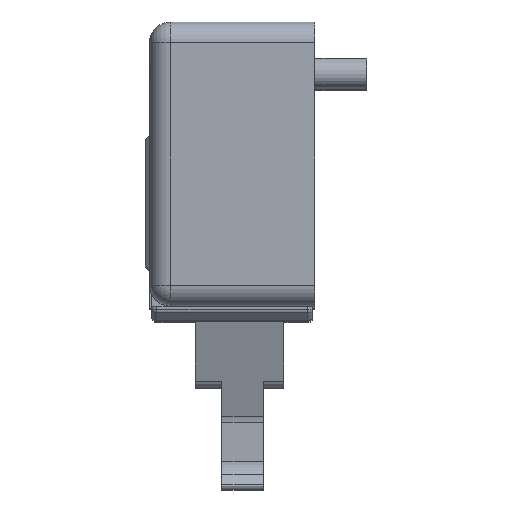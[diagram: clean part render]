
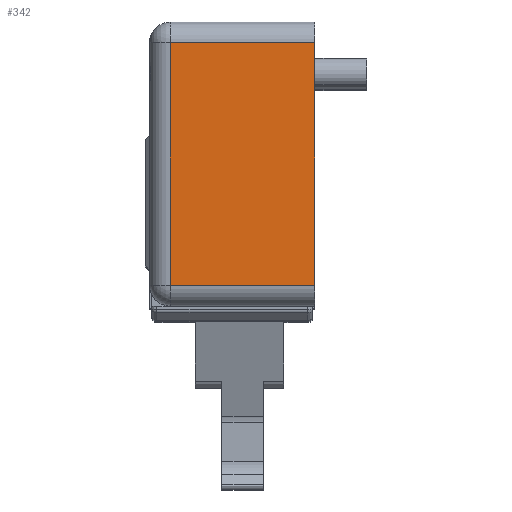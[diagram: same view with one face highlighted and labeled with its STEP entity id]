
A CAD part, top view. The second image highlights one B-rep face of the part: STEP entity #342.
In plain terms, the highlighted planar face has unit normal (0, 0, 1).
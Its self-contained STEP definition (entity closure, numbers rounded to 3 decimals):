
#342=ADVANCED_FACE('',(#2751),#2750,.T.);
#2750=PLANE('',#4886);
#2751=FACE_OUTER_BOUND('',#4887,.T.);
#4883=CARTESIAN_POINT('',(-15.4,-35.35,62.2));
#4884=DIRECTION('',(0.,0.,1.));
#4885=DIRECTION('',(1.,0.,0.));
#4886=AXIS2_PLACEMENT_3D('',#4883,#4884,#4885);
#4887=EDGE_LOOP('',(#6867,#6868,#6869,#6870));
#6867=ORIENTED_EDGE('',*,*,#8077,.F.);
#6868=ORIENTED_EDGE('',*,*,#8015,.T.);
#6869=ORIENTED_EDGE('',*,*,#8075,.T.);
#6870=ORIENTED_EDGE('',*,*,#8078,.F.);
#8015=EDGE_CURVE('',#12715,#12708,#12716,.T.);
#8075=EDGE_CURVE('',#12708,#13127,#13128,.T.);
#8077=EDGE_CURVE('',#12715,#13140,#13141,.T.);
#8078=EDGE_CURVE('',#13140,#13127,#13147,.T.);
#12708=VERTEX_POINT('',#17078);
#12715=VERTEX_POINT('',#17083);
#12716=LINE('',#17084,#17085);
#13127=VERTEX_POINT('',#17330);
#13128=LINE('',#17331,#17332);
#13140=VERTEX_POINT('',#17338);
#13141=LINE('',#17339,#17340);
#13147=LINE('',#17342,#17343);
#17078=CARTESIAN_POINT('',(-14.,-33.,62.2));
#17083=CARTESIAN_POINT('',(-14.,-9.5,62.2));
#17084=CARTESIAN_POINT('',(-14.,-9.5,62.2));
#17085=VECTOR('',#17086,23.5);
#17086=DIRECTION('',(0.,-1.,0.));
#17330=CARTESIAN_POINT('',(0.,-33.,62.2));
#17331=CARTESIAN_POINT('',(-14.,-33.,62.2));
#17332=VECTOR('',#17333,14.);
#17333=DIRECTION('',(1.,0.,0.));
#17338=CARTESIAN_POINT('',(0.,-9.5,62.2));
#17339=CARTESIAN_POINT('',(-14.,-9.5,62.2));
#17340=VECTOR('',#17341,14.);
#17341=DIRECTION('',(1.,0.,0.));
#17342=CARTESIAN_POINT('',(0.,-9.5,62.2));
#17343=VECTOR('',#17344,23.5);
#17344=DIRECTION('',(0.,-1.,0.));
